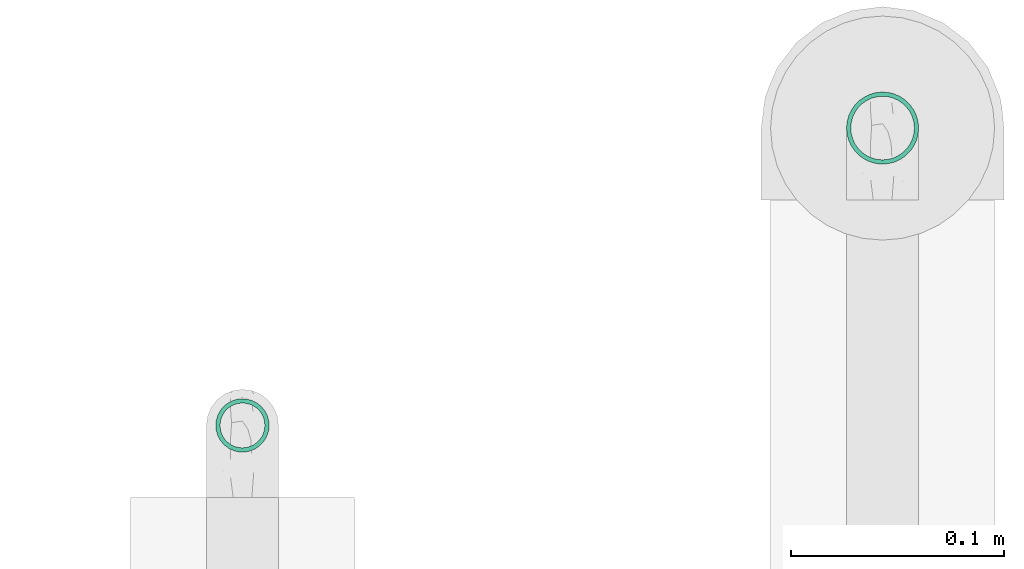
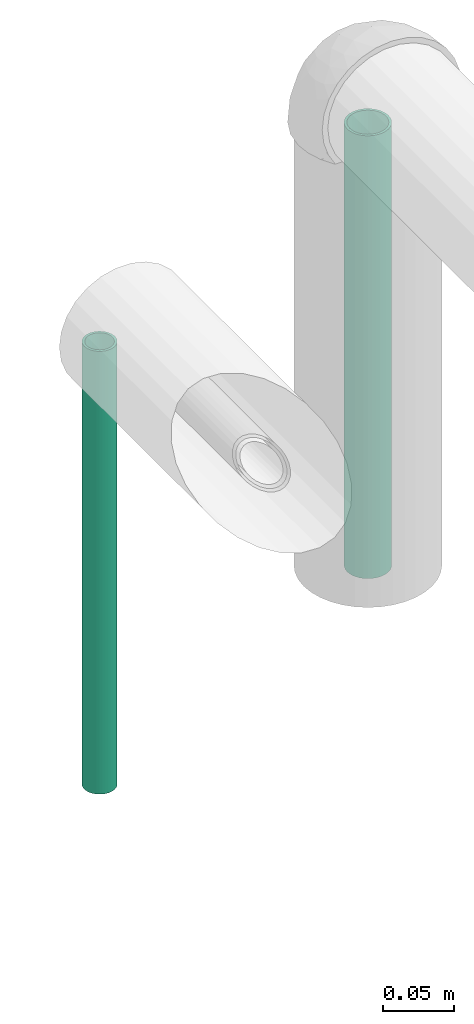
# One storey, part 16 of 17: 2 flow segments.
"""IFC2X3 building model written with IfcOpenShell, lengths in millimetres."""

from ifc_helpers import new_model, entity, si_unit, converted_unit, derived_unit, direction, frame, place, context, subcontext, project, spatial, faceted_brep, type_object, element, save


model = new_model("IFC2X3")

# Units and contexts
model_context = context("Model", 3, precision=0.01, world=frame((0.0, 4.29681676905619e-09, 0.0)), true_north=direction((4.01073788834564e-13, 1.0)))
plan_context = context("Plan", 3, precision=0.01, world=frame((0.0, 4.29681676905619e-09, 0.0)), true_north=direction((4.01073788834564e-13, 1.0)))
body_context = subcontext(model_context, "Body", "Model", "MODEL_VIEW")
ifc_project = project(units=[converted_unit("PLANEANGLEUNIT", "DEGREE", entity("IfcPositiveLengthMeasure", 0.0174532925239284), si_unit("PLANEANGLEUNIT", "RADIAN"), dimensions=[0, 0, 0, 0, 0, 0, 0]), si_unit("AREAUNIT", "SQUARE_METRE"), si_unit("LENGTHUNIT", "METRE", prefix="MILLI"), si_unit("MASSUNIT", "GRAM", prefix="KILO"), si_unit("POWERUNIT", "WATT"), si_unit("PRESSUREUNIT", "PASCAL", prefix="KILO"), si_unit("FORCEUNIT", "NEWTON", prefix="KILO"), si_unit("ELECTRICVOLTAGEUNIT", "VOLT"), si_unit("ELECTRICCURRENTUNIT", "AMPERE"), si_unit("THERMODYNAMICTEMPERATUREUNIT", "DEGREE_CELSIUS"), si_unit("TIMEUNIT", "SECOND"), si_unit("VOLUMEUNIT", "CUBIC_METRE"), derived_unit("LINEARVELOCITYUNIT", [(si_unit("LENGTHUNIT", "METRE"), 1), (si_unit("TIMEUNIT", "SECOND"), -1)]), derived_unit("VOLUMETRICFLOWRATEUNIT", [(si_unit("VOLUMEUNIT", "CUBIC_METRE"), 1), (si_unit("TIMEUNIT", "SECOND"), -1)]), derived_unit("THERMALTRANSMITTANCEUNIT", [(si_unit("POWERUNIT", "WATT"), 1), (si_unit("THERMODYNAMICTEMPERATUREUNIT", "KELVIN"), -1), (si_unit("AREAUNIT", "SQUARE_METRE"), -1)]), derived_unit("SOUNDPRESSUREUNIT", [(si_unit("PRESSUREUNIT", "PASCAL"), 1)])], contexts=[model_context, plan_context])

# Site, building, storey
site_placement = place(None, frame((0.0, -4.29681676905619e-09, 0.0), z_axis=(0.0, 0.0, 1.0), x_axis=(1.0, 0.0, 0.0)))
site = spatial("IfcSite", under=ifc_project, at=site_placement, Name="ENGM", CompositionType="ELEMENT")
building_placement = place(site_placement, frame((0.0, 4.29681676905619e-09, 0.0), z_axis=(0.0, 0.0, 1.0), x_axis=(1.0, 0.0, 0.0)))
building = spatial("IfcBuilding", under=site, at=building_placement, Name="TI", CompositionType="ELEMENT")
storey_placement = place(building_placement, frame((0.0, 0.0, 207370.0), z_axis=(0.0, 0.0, 1.0), x_axis=(1.0, 0.0, 0.0)))
storey = spatial("IfcBuildingStorey", under=building, at=storey_placement, Name="Nivå E", CompositionType="ELEMENT", Elevation=207370.0)

# Flow segments
pipe_segment_type = type_object("IfcPipeSegmentType", Name="Stålrør normaltykke", PredefinedType="RIGIDSEGMENT")
flow_segment_1_placement = place(storey_placement, frame((598669.97776, 573914.96996, 2140.10000000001), z_axis=(0.0, 1.0, 0.0), x_axis=(0.0, 0.0, 1.0)))
element("IfcFlowSegment", 1, at=flow_segment_1_placement, inside=storey, type_object=pipe_segment_type, Name="Stålrør normaltykke", context=body_context, shape_type="Brep", body=[
    faceted_brep([(389.899999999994, 10.3404814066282, -1.82330586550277), (389.899999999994, 10.5, 0.0), (773.0, 10.5, 0.0), (773.0, 10.3404814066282, -1.82330586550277), (389.899999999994, 9.86677251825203, -3.59121150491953), (773.0, 9.86677251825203, -3.59121150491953), (389.899999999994, 9.0932667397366, -5.25), (773.0, 9.0932667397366, -5.25), (389.899999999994, 8.04346665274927, -6.74926990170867), (773.0, 8.04346665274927, -6.74926990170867), (389.899999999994, 6.74926990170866, -8.04346665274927), (773.0, 6.74926990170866, -8.04346665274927), (389.899999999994, 5.25, -9.09326673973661), (773.0, 5.25, -9.09326673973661), (389.899999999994, 3.59121150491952, -9.86677251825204), (773.0, 3.59121150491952, -9.86677251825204), (389.899999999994, 1.82330586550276, -10.3404814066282), (773.0, 1.82330586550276, -10.3404814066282), (389.899999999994, -1.92881870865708e-15, -10.5), (773.0, -1.92881870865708e-15, -10.5), (389.899999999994, -1.82330586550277, -10.3404814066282), (773.0, -1.82330586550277, -10.3404814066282), (389.899999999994, -3.59121150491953, -9.86677251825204), (773.0, -3.59121150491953, -9.86677251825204), (389.899999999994, -5.25, -9.0932667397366), (773.0, -5.25, -9.0932667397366), (389.899999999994, -6.74926990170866, -8.04346665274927), (773.0, -6.74926990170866, -8.04346665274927), (389.899999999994, -8.04346665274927, -6.74926990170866), (773.0, -8.04346665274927, -6.74926990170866), (389.899999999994, -9.09326673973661, -5.25), (773.0, -9.09326673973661, -5.25), (389.899999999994, -9.86677251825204, -3.59121150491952), (773.0, -9.86677251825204, -3.59121150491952), (389.899999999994, -10.3404814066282, -1.82330586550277), (773.0, -10.3404814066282, -1.82330586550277), (389.899999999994, -10.5, 1.28587913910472e-15), (773.0, -10.5, 1.28587913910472e-15), (389.899999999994, -10.3404814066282, 1.82330586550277), (773.0, -10.3404814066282, 1.82330586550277), (389.899999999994, -9.86677251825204, 3.59121150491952), (773.0, -9.86677251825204, 3.59121150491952), (389.899999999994, -9.09326673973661, 5.25), (773.0, -9.09326673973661, 5.25), (389.899999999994, -8.04346665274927, 6.74926990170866), (773.0, -8.04346665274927, 6.74926990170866), (389.899999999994, -6.74926990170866, 8.04346665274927), (773.0, -6.74926990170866, 8.04346665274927), (389.899999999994, -5.25, 9.09326673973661), (773.0, -5.25, 9.09326673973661), (389.899999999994, -3.59121150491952, 9.86677251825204), (773.0, -3.59121150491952, 9.86677251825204), (389.899999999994, -1.82330586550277, 10.3404814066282), (773.0, -1.82330586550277, 10.3404814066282), (389.899999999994, 6.4293956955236e-16, 10.5), (773.0, 6.4293956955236e-16, 10.5), (389.899999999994, 1.82330586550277, 10.3404814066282), (773.0, 1.82330586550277, 10.3404814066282), (389.899999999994, 3.59121150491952, 9.86677251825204), (773.0, 3.59121150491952, 9.86677251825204), (389.899999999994, 5.25, 9.09326673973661), (773.0, 5.25, 9.09326673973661), (389.899999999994, 6.74926990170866, 8.04346665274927), (773.0, 6.74926990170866, 8.04346665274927), (389.899999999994, 8.04346665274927, 6.74926990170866), (773.0, 8.04346665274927, 6.74926990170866), (389.899999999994, 9.09326673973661, 5.25), (773.0, 9.09326673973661, 5.25), (389.899999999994, 9.86677251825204, 3.59121150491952), (773.0, 9.86677251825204, 3.59121150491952), (389.899999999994, 10.3404814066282, 1.82330586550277), (773.0, 10.3404814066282, 1.82330586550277), (389.899999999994, 12.5, 0.0), (389.899999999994, 12.3100969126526, -2.17060222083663), (773.0, 12.3100969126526, -2.17060222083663), (773.0, 12.5, 0.0), (389.899999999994, 12.3100969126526, 2.17060222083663), (773.0, 12.3100969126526, 2.17060222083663), (389.899999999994, 11.7461577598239, 4.27525179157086), (773.0, 11.7461577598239, 4.27525179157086), (389.899999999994, 10.8253175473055, 6.25), (773.0, 10.8253175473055, 6.25), (389.899999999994, 9.57555553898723, 8.03484512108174), (773.0, 9.57555553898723, 8.03484512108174), (389.899999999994, 8.03484512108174, 9.57555553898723), (773.0, 8.03484512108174, 9.57555553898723), (389.899999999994, 6.25, 10.8253175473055), (773.0, 6.25, 10.8253175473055), (389.899999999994, 4.27525179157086, 11.7461577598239), (773.0, 4.27525179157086, 11.7461577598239), (389.899999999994, 2.17060222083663, 12.3100969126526), (773.0, 2.17060222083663, 12.3100969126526), (389.899999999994, 7.65404249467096e-16, 12.5), (773.0, 7.65404249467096e-16, 12.5), (389.899999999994, -2.17060222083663, 12.3100969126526), (773.0, -2.17060222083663, 12.3100969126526), (389.899999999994, -4.27525179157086, 11.7461577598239), (773.0, -4.27525179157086, 11.7461577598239), (389.899999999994, -6.25, 10.8253175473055), (773.0, -6.25, 10.8253175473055), (389.899999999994, -8.03484512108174, 9.57555553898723), (773.0, -8.03484512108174, 9.57555553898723), (389.899999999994, -9.57555553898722, 8.03484512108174), (773.0, -9.57555553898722, 8.03484512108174), (389.899999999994, -10.8253175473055, 6.25), (773.0, -10.8253175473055, 6.25), (389.899999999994, -11.7461577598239, 4.27525179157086), (773.0, -11.7461577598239, 4.27525179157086), (389.899999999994, -12.3100969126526, 2.17060222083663), (773.0, -12.3100969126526, 2.17060222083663), (389.899999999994, -12.5, 1.53080849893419e-15), (773.0, -12.5, 1.53080849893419e-15), (389.899999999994, -12.3100969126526, -2.17060222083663), (773.0, -12.3100969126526, -2.17060222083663), (389.899999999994, -11.7461577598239, -4.27525179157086), (773.0, -11.7461577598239, -4.27525179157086), (389.899999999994, -10.8253175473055, -6.25), (773.0, -10.8253175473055, -6.25), (389.899999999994, -9.57555553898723, -8.03484512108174), (773.0, -9.57555553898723, -8.03484512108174), (389.899999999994, -8.03484512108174, -9.57555553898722), (773.0, -8.03484512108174, -9.57555553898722), (389.899999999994, -6.25000000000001, -10.8253175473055), (773.0, -6.25000000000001, -10.8253175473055), (389.899999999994, -4.27525179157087, -11.7461577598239), (773.0, -4.27525179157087, -11.7461577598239), (389.899999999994, -2.17060222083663, -12.3100969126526), (773.0, -2.17060222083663, -12.3100969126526), (389.899999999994, -2.29621274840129e-15, -12.5), (773.0, -2.29621274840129e-15, -12.5), (389.899999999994, 2.17060222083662, -12.3100969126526), (773.0, 2.17060222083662, -12.3100969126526), (389.899999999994, 4.27525179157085, -11.7461577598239), (773.0, 4.27525179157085, -11.7461577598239), (389.899999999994, 6.25, -10.8253175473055), (773.0, 6.25, -10.8253175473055), (389.899999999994, 8.03484512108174, -9.57555553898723), (773.0, 8.03484512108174, -9.57555553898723), (389.899999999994, 9.57555553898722, -8.03484512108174), (773.0, 9.57555553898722, -8.03484512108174), (389.899999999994, 10.8253175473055, -6.25000000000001), (773.0, 10.8253175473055, -6.25000000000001), (389.899999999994, 11.7461577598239, -4.27525179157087), (773.0, 11.7461577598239, -4.27525179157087)], [[[0, 1, 2, 3]], [[4, 0, 3, 5]], [[6, 4, 5, 7]], [[8, 6, 7, 9]], [[10, 8, 9, 11]], [[12, 10, 11, 13]], [[14, 12, 13, 15]], [[16, 14, 15, 17]], [[18, 16, 17, 19]], [[20, 18, 19, 21]], [[22, 20, 21, 23]], [[24, 22, 23, 25]], [[26, 24, 25, 27]], [[28, 26, 27, 29]], [[30, 28, 29, 31]], [[32, 30, 31, 33]], [[34, 32, 33, 35]], [[36, 34, 35, 37]], [[38, 36, 37, 39]], [[40, 38, 39, 41]], [[42, 40, 41, 43]], [[44, 42, 43, 45]], [[46, 44, 45, 47]], [[48, 46, 47, 49]], [[50, 48, 49, 51]], [[52, 50, 51, 53]], [[54, 52, 53, 55]], [[56, 54, 55, 57]], [[58, 56, 57, 59]], [[60, 58, 59, 61]], [[62, 60, 61, 63]], [[64, 62, 63, 65]], [[66, 64, 65, 67]], [[68, 66, 67, 69]], [[70, 68, 69, 71]], [[1, 70, 71, 2]], [[72, 73, 74, 75]], [[76, 72, 75, 77]], [[78, 76, 77, 79]], [[80, 78, 79, 81]], [[82, 80, 81, 83]], [[84, 82, 83, 85]], [[86, 84, 85, 87]], [[88, 86, 87, 89]], [[90, 88, 89, 91]], [[92, 90, 91, 93]], [[94, 92, 93, 95]], [[96, 94, 95, 97]], [[98, 96, 97, 99]], [[100, 98, 99, 101]], [[102, 100, 101, 103]], [[104, 102, 103, 105]], [[106, 104, 105, 107]], [[108, 106, 107, 109]], [[110, 108, 109, 111]], [[112, 110, 111, 113]], [[114, 112, 113, 115]], [[116, 114, 115, 117]], [[118, 116, 117, 119]], [[120, 118, 119, 121]], [[122, 120, 121, 123]], [[124, 122, 123, 125]], [[126, 124, 125, 127]], [[128, 126, 127, 129]], [[130, 128, 129, 131]], [[132, 130, 131, 133]], [[134, 132, 133, 135]], [[136, 134, 135, 137]], [[138, 136, 137, 139]], [[140, 138, 139, 141]], [[142, 140, 141, 143]], [[73, 142, 143, 74]], [[75, 74, 143, 141, 139, 137, 135, 133, 131, 129, 127, 125, 123, 121, 119, 117, 115, 113, 111, 109, 107, 105, 103, 101, 99, 97, 95, 93, 91, 89, 87, 85, 83, 81, 79, 77], [2, 71, 69, 67, 65, 63, 61, 59, 57, 55, 53, 51, 49, 47, 45, 43, 41, 39, 37, 35, 33, 31, 29, 27, 25, 23, 21, 19, 17, 15, 13, 11, 9, 7, 5, 3]], [[76, 78, 80, 82, 84, 86, 88, 90, 92, 94, 96, 98, 100, 102, 104, 106, 108, 110, 112, 114, 116, 118, 120, 122, 124, 126, 128, 130, 132, 134, 136, 138, 140, 142, 73, 72], [4, 6, 8, 10, 12, 14, 16, 18, 20, 22, 24, 26, 28, 30, 32, 34, 36, 38, 40, 42, 44, 46, 48, 50, 52, 54, 56, 58, 60, 62, 64, 66, 68, 70, 1, 0]]], orient=[[False], [False], [False], [False], [False], [False], [False], [False], [False], [False], [False], [False], [False], [False], [False], [False], [False], [False], [False], [False], [False], [False], [False], [False], [False], [False], [False], [False], [False], [False], [False], [False], [False], [False], [False], [False], [False], [False], [False], [False], [False], [False], [False], [False], [False], [False], [False], [False], [False], [False], [False], [False], [False], [False], [False], [False], [False], [False], [False], [False], [False], [False], [False], [False], [False], [False], [False], [False], [False], [False], [False], [False], [False, False], [False, False]]),
])
flow_segment_2_placement = place(storey_placement, frame((598969.96633, 574054.33025, 2140.10000000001), z_axis=(0.0, 1.0, 0.0), x_axis=(0.0, 0.0, 1.0)))
element("IfcFlowSegment", 2, at=flow_segment_2_placement, inside=storey, type_object=pipe_segment_type, Name="Stålrør normaltykke", context=body_context, shape_type="Brep", body=[
    faceted_brep([(389.899999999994, 14.6736355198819, -2.58735784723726), (389.899999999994, 14.9, 0.0), (773.0, 14.9, 0.0), (773.0, 14.6736355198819, -2.58735784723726), (389.899999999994, 14.00142004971, -5.09610013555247), (773.0, 14.00142004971, -5.09610013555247), (389.899999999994, 12.9037785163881, -7.45000000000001), (773.0, 12.9037785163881, -7.45000000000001), (389.899999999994, 11.4140622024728, -9.57753538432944), (773.0, 11.4140622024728, -9.57753538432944), (389.899999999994, 9.57753538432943, -11.4140622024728), (773.0, 9.57753538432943, -11.4140622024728), (389.899999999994, 7.45, -12.9037785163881), (773.0, 7.45, -12.9037785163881), (389.899999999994, 5.09610013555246, -14.00142004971), (773.0, 5.09610013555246, -14.00142004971), (389.899999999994, 2.58735784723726, -14.6736355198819), (773.0, 2.58735784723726, -14.6736355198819), (389.899999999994, -2.73708559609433e-15, -14.9), (773.0, -2.73708559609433e-15, -14.9), (389.899999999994, -2.58735784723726, -14.6736355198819), (773.0, -2.58735784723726, -14.6736355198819), (389.899999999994, -5.09610013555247, -14.00142004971), (773.0, -5.09610013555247, -14.00142004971), (389.899999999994, -7.45000000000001, -12.9037785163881), (773.0, -7.45000000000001, -12.9037785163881), (389.899999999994, -9.57753538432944, -11.4140622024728), (773.0, -9.57753538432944, -11.4140622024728), (389.899999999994, -11.4140622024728, -9.57753538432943), (773.0, -11.4140622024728, -9.57753538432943), (389.899999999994, -12.9037785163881, -7.44999999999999), (773.0, -12.9037785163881, -7.44999999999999), (389.899999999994, -14.00142004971, -5.09610013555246), (773.0, -14.00142004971, -5.09610013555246), (389.899999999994, -14.6736355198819, -2.58735784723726), (773.0, -14.6736355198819, -2.58735784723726), (389.899999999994, -14.9, 1.82472373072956e-15), (773.0, -14.9, 1.82472373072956e-15), (389.899999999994, -14.6736355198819, 2.58735784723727), (773.0, -14.6736355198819, 2.58735784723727), (389.899999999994, -14.00142004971, 5.09610013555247), (773.0, -14.00142004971, 5.09610013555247), (389.899999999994, -12.9037785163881, 7.45), (773.0, -12.9037785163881, 7.45), (389.899999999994, -11.4140622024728, 9.57753538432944), (773.0, -11.4140622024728, 9.57753538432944), (389.899999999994, -9.57753538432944, 11.4140622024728), (773.0, -9.57753538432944, 11.4140622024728), (389.899999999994, -7.45, 12.9037785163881), (773.0, -7.45, 12.9037785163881), (389.899999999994, -5.09610013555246, 14.00142004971), (773.0, -5.09610013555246, 14.00142004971), (389.899999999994, -2.58735784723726, 14.6736355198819), (773.0, -2.58735784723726, 14.6736355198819), (389.899999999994, 9.12361865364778e-16, 14.9), (773.0, 9.12361865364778e-16, 14.9), (389.899999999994, 2.58735784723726, 14.6736355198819), (773.0, 2.58735784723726, 14.6736355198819), (389.899999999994, 5.09610013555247, 14.00142004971), (773.0, 5.09610013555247, 14.00142004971), (389.899999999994, 7.45, 12.9037785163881), (773.0, 7.45, 12.9037785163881), (389.899999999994, 9.57753538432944, 11.4140622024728), (773.0, 9.57753538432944, 11.4140622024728), (389.899999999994, 11.4140622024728, 9.57753538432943), (773.0, 11.4140622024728, 9.57753538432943), (389.899999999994, 12.9037785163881, 7.45), (773.0, 12.9037785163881, 7.45), (389.899999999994, 14.00142004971, 5.09610013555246), (773.0, 14.00142004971, 5.09610013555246), (389.899999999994, 14.6736355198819, 2.58735784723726), (773.0, 14.6736355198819, 2.58735784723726), (389.899999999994, 16.9, 0.0), (389.899999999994, 16.6432510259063, -2.93465420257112), (773.0, 16.6432510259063, -2.93465420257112), (773.0, 16.9, 0.0), (389.899999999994, 16.6432510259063, 2.93465420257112), (773.0, 16.6432510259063, 2.93465420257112), (389.899999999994, 15.8808052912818, 5.7801404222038), (773.0, 15.8808052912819, 5.7801404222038), (389.899999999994, 14.635829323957, 8.45), (773.0, 14.635829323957, 8.45), (389.899999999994, 12.9461510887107, 10.8631106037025), (773.0, 12.9461510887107, 10.8631106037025), (389.899999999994, 10.8631106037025, 12.9461510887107), (773.0, 10.8631106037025, 12.9461510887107), (389.899999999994, 8.45, 14.635829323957), (773.0, 8.45, 14.635829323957), (389.899999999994, 5.7801404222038, 15.8808052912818), (773.0, 5.7801404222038, 15.8808052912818), (389.899999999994, 2.93465420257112, 16.6432510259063), (773.0, 2.93465420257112, 16.6432510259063), (389.899999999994, 1.03482654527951e-15, 16.9), (773.0, 1.03482654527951e-15, 16.9), (389.899999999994, -2.93465420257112, 16.6432510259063), (773.0, -2.93465420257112, 16.6432510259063), (389.899999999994, -5.7801404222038, 15.8808052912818), (773.0, -5.7801404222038, 15.8808052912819), (389.899999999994, -8.45, 14.635829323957), (773.0, -8.45, 14.635829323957), (389.899999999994, -10.8631106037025, 12.9461510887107), (773.0, -10.8631106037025, 12.9461510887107), (389.899999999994, -12.9461510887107, 10.8631106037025), (773.0, -12.9461510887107, 10.8631106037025), (389.899999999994, -14.635829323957, 8.45), (773.0, -14.635829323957, 8.45), (389.899999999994, -15.8808052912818, 5.7801404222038), (773.0, -15.8808052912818, 5.7801404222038), (389.899999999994, -16.6432510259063, 2.93465420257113), (773.0, -16.6432510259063, 2.93465420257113), (389.899999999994, -16.9, 2.06965309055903e-15), (773.0, -16.9, 2.06965309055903e-15), (389.899999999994, -16.6432510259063, -2.93465420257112), (773.0, -16.6432510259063, -2.93465420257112), (389.899999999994, -15.8808052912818, -5.7801404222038), (773.0, -15.8808052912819, -5.7801404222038), (389.899999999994, -14.635829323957, -8.44999999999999), (773.0, -14.635829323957, -8.44999999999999), (389.899999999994, -12.9461510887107, -10.8631106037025), (773.0, -12.9461510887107, -10.8631106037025), (389.899999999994, -10.8631106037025, -12.9461510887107), (773.0, -10.8631106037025, -12.9461510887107), (389.899999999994, -8.45000000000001, -14.635829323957), (773.0, -8.45000000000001, -14.635829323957), (389.899999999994, -5.78014042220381, -15.8808052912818), (773.0, -5.78014042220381, -15.8808052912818), (389.899999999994, -2.93465420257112, -16.6432510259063), (773.0, -2.93465420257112, -16.6432510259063), (389.899999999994, -3.10447963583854e-15, -16.9), (773.0, -3.10447963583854e-15, -16.9), (389.899999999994, 2.93465420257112, -16.6432510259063), (773.0, 2.93465420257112, -16.6432510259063), (389.899999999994, 5.78014042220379, -15.8808052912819), (773.0, 5.78014042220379, -15.8808052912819), (389.899999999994, 8.45, -14.635829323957), (773.0, 8.45, -14.635829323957), (389.899999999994, 10.8631106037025, -12.9461510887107), (773.0, 10.8631106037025, -12.9461510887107), (389.899999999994, 12.9461510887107, -10.8631106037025), (773.0, 12.9461510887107, -10.8631106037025), (389.899999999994, 14.635829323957, -8.45000000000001), (773.0, 14.635829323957, -8.45000000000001), (389.899999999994, 15.8808052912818, -5.78014042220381), (773.0, 15.8808052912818, -5.78014042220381)], [[[0, 1, 2, 3]], [[4, 0, 3, 5]], [[6, 4, 5, 7]], [[8, 6, 7, 9]], [[10, 8, 9, 11]], [[12, 10, 11, 13]], [[14, 12, 13, 15]], [[16, 14, 15, 17]], [[18, 16, 17, 19]], [[20, 18, 19, 21]], [[22, 20, 21, 23]], [[24, 22, 23, 25]], [[26, 24, 25, 27]], [[28, 26, 27, 29]], [[30, 28, 29, 31]], [[32, 30, 31, 33]], [[34, 32, 33, 35]], [[36, 34, 35, 37]], [[38, 36, 37, 39]], [[40, 38, 39, 41]], [[42, 40, 41, 43]], [[44, 42, 43, 45]], [[46, 44, 45, 47]], [[48, 46, 47, 49]], [[50, 48, 49, 51]], [[52, 50, 51, 53]], [[54, 52, 53, 55]], [[56, 54, 55, 57]], [[58, 56, 57, 59]], [[60, 58, 59, 61]], [[62, 60, 61, 63]], [[64, 62, 63, 65]], [[66, 64, 65, 67]], [[68, 66, 67, 69]], [[70, 68, 69, 71]], [[1, 70, 71, 2]], [[72, 73, 74, 75]], [[76, 72, 75, 77]], [[78, 76, 77, 79]], [[80, 78, 79, 81]], [[82, 80, 81, 83]], [[84, 82, 83, 85]], [[86, 84, 85, 87]], [[88, 86, 87, 89]], [[90, 88, 89, 91]], [[92, 90, 91, 93]], [[94, 92, 93, 95]], [[96, 94, 95, 97]], [[98, 96, 97, 99]], [[100, 98, 99, 101]], [[102, 100, 101, 103]], [[104, 102, 103, 105]], [[106, 104, 105, 107]], [[108, 106, 107, 109]], [[110, 108, 109, 111]], [[112, 110, 111, 113]], [[114, 112, 113, 115]], [[116, 114, 115, 117]], [[118, 116, 117, 119]], [[120, 118, 119, 121]], [[122, 120, 121, 123]], [[124, 122, 123, 125]], [[126, 124, 125, 127]], [[128, 126, 127, 129]], [[130, 128, 129, 131]], [[132, 130, 131, 133]], [[134, 132, 133, 135]], [[136, 134, 135, 137]], [[138, 136, 137, 139]], [[140, 138, 139, 141]], [[142, 140, 141, 143]], [[73, 142, 143, 74]], [[75, 74, 143, 141, 139, 137, 135, 133, 131, 129, 127, 125, 123, 121, 119, 117, 115, 113, 111, 109, 107, 105, 103, 101, 99, 97, 95, 93, 91, 89, 87, 85, 83, 81, 79, 77], [2, 71, 69, 67, 65, 63, 61, 59, 57, 55, 53, 51, 49, 47, 45, 43, 41, 39, 37, 35, 33, 31, 29, 27, 25, 23, 21, 19, 17, 15, 13, 11, 9, 7, 5, 3]], [[76, 78, 80, 82, 84, 86, 88, 90, 92, 94, 96, 98, 100, 102, 104, 106, 108, 110, 112, 114, 116, 118, 120, 122, 124, 126, 128, 130, 132, 134, 136, 138, 140, 142, 73, 72], [4, 6, 8, 10, 12, 14, 16, 18, 20, 22, 24, 26, 28, 30, 32, 34, 36, 38, 40, 42, 44, 46, 48, 50, 52, 54, 56, 58, 60, 62, 64, 66, 68, 70, 1, 0]]], orient=[[False], [False], [False], [False], [False], [False], [False], [False], [False], [False], [False], [False], [False], [False], [False], [False], [False], [False], [False], [False], [False], [False], [False], [False], [False], [False], [False], [False], [False], [False], [False], [False], [False], [False], [False], [False], [False], [False], [False], [False], [False], [False], [False], [False], [False], [False], [False], [False], [False], [False], [False], [False], [False], [False], [False], [False], [False], [False], [False], [False], [False], [False], [False], [False], [False], [False], [False], [False], [False], [False], [False], [False], [False, False], [False, False]]),
])

save(model, "model.ifc")
